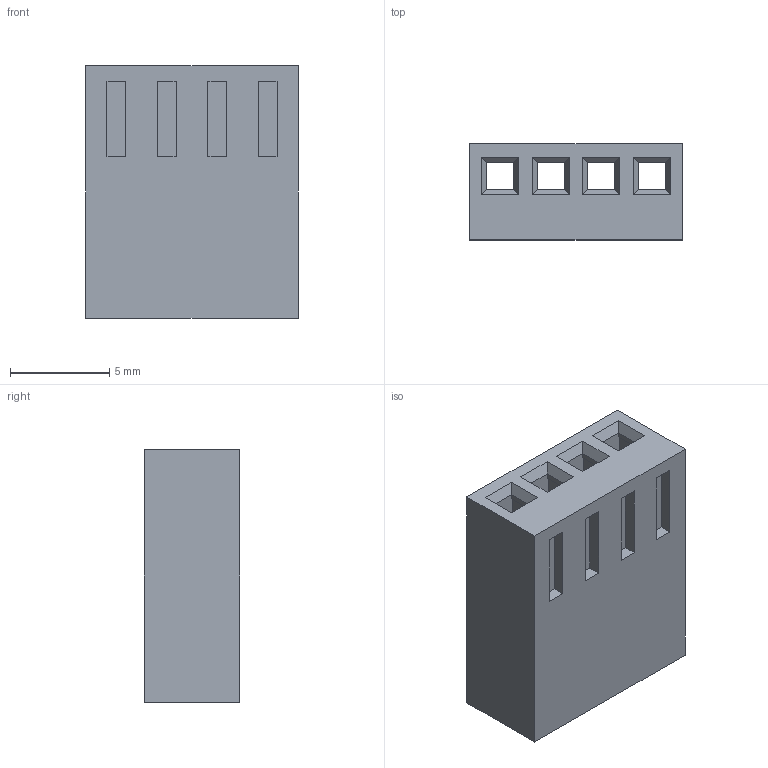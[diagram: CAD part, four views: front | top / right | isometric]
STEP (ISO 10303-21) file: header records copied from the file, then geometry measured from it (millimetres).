
FILE_DESCRIPTION((''),'2;1');
FILE_NAME('022012041','2010-01-08T',('pnb'),(''),'PRO/ENGINEER BY PARAMETRIC TECHNOLOGY CORPORATION, 2003451','PRO/ENGINEER BY PARAMETRIC TECHNOLOGY CORPORATION, 2003451','');
FILE_SCHEMA(('CONFIG_CONTROL_DESIGN'));
Length unit declared in the file: inch
Products named in the file (1): 022012041
Bounding box: 10.72 x 4.83 x 12.7 mm (x, y, z)
Volume: 428.4 mm3; surface area: 960.6 mm2
Topology: 1 solids, 1 shells, 90 faces, 243 edges, 166 vertices
Faces by surface type: plane 90
Entity records: 2792 total; most frequent: CARTESIAN_POINT 486, ORIENTED_EDGE 472, DIRECTION 425, VECTOR 243, LINE 243, EDGE_CURVE 236, VERTEX_POINT 152, EDGE_LOOP 102
